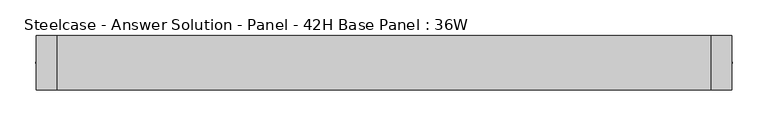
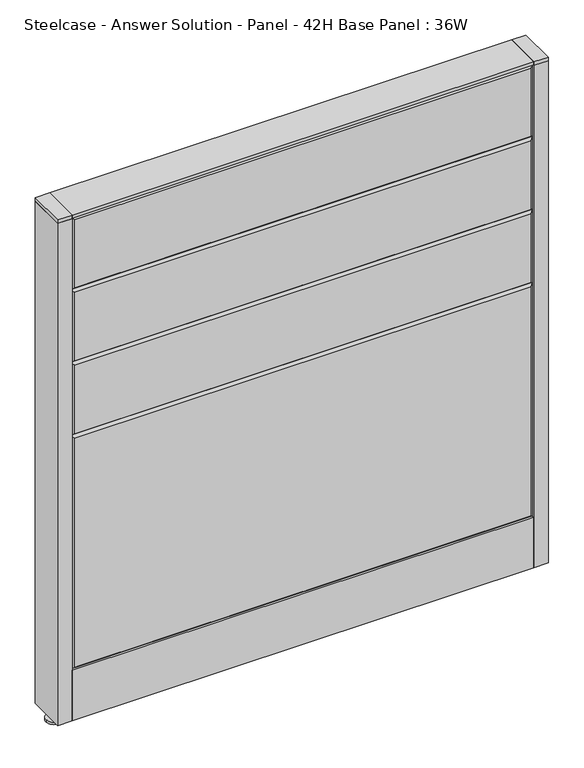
"""IFC4 building model written with IfcOpenShell, lengths in millimetres: furniture geometry, Steelcase - Answer Solution - Panel - 42H Base Panel : 36W."""

from ifc_helpers import new_model, si_unit, point, frame, frame_2d, origin, place, context, project, spatial, polyline, circle_curve, trimmed, segment, composite_curve, outline, extrude, faceted_brep, source, transform, mapped, element, save


def steelcase_answer_solution_panel_42h_base_panel_36w_b09bc268(model_context):
    return source(origin(), model_context, "Body", "SolidModel", [
        extrude(outline(composite_curve([segment(trimmed(circle_curve(frame_2d((471.424, 0.0039657)), 5.08), [point((476.504, 0.0039657))], [point((466.344, 0.0039657))], False, "CARTESIAN"), True, "CONTINUOUS"), segment(trimmed(circle_curve(frame_2d((471.424, 0.0039657)), 5.08), [point((466.344, 0.0039657))], [point((476.504, 0.0039657))], False, "CARTESIAN"), True, "CONTINUOUS")], self_intersect=False)), frame((0.0, 0.0, 5.0799671), z_axis=(0.0, 0.0, 1.0), x_axis=(1.0, 0.0, 0.0)), (0.0, 0.0, 1.0), 10.414),
        extrude(outline(composite_curve([segment(trimmed(circle_curve(frame_2d((471.424, 0.0039657)), 15.24), [point((486.664, 0.0039657))], [point((456.184, 0.0039657))], False, "CARTESIAN"), True, "CONTINUOUS"), segment(trimmed(circle_curve(frame_2d((471.424, 0.0039657)), 15.24), [point((456.184, 0.0039657))], [point((486.664, 0.0039657))], False, "CARTESIAN"), True, "CONTINUOUS")], self_intersect=False)), frame((0.0, 0.0, -3.29e-05), z_axis=(0.0, 0.0, 1.0), x_axis=(1.0, 0.0, 0.0)), (0.0, 0.0, 1.0), 5.08),
        extrude(outline(polyline([(485.775, 38.1039851), (485.775, -38.0960149), (457.2, -38.0960149), (457.2, 38.1039851), (485.775, 38.1039851)])), frame((0.0, 0.0, 1065.8348), z_axis=(0.0, 0.0, 1.0), x_axis=(1.0, 0.0, 0.0)), (0.0, 0.0, 1.0), 7.3151671),
        extrude(outline(polyline([(485.775, 38.1039851), (485.775, -38.0960149), (457.2, -38.0960149), (457.2, 38.1039851), (485.775, 38.1039851)])), frame((0.0, 0.0, 15.4939671), z_axis=(0.0, 0.0, 1.0), x_axis=(1.0, 0.0, 0.0)), (0.0, 0.0, 1.0), 1050.3408329),
        extrude(outline(composite_curve([segment(trimmed(circle_curve(frame_2d((-471.424, 0.0039657)), 5.08), [point((-476.504, 0.0039657))], [point((-466.344, 0.0039657))], False, "CARTESIAN"), True, "CONTINUOUS"), segment(trimmed(circle_curve(frame_2d((-471.424, 0.0039657)), 5.08), [point((-466.344, 0.0039657))], [point((-476.504, 0.0039657))], False, "CARTESIAN"), True, "CONTINUOUS")], self_intersect=False)), frame((0.0, 0.0, 5.0799671), z_axis=(0.0, 0.0, 1.0), x_axis=(1.0, 0.0, 0.0)), (0.0, 0.0, 1.0), 10.414),
        extrude(outline(composite_curve([segment(trimmed(circle_curve(frame_2d((-471.424, 0.0039657)), 15.24), [point((-486.664, 0.0039657))], [point((-456.184, 0.0039657))], False, "CARTESIAN"), True, "CONTINUOUS"), segment(trimmed(circle_curve(frame_2d((-471.424, 0.0039657)), 15.24), [point((-456.184, 0.0039657))], [point((-486.664, 0.0039657))], False, "CARTESIAN"), True, "CONTINUOUS")], self_intersect=False)), frame((0.0, 0.0, -3.29e-05), z_axis=(0.0, 0.0, 1.0), x_axis=(1.0, 0.0, 0.0)), (0.0, 0.0, 1.0), 5.08),
        extrude(outline(polyline([(-485.775, 38.1039851), (-457.2, 38.1039851), (-457.2, -38.0960149), (-485.775, -38.0960149), (-485.775, 38.1039851)])), frame((0.0, 0.0, 1065.8348), z_axis=(0.0, 0.0, 1.0), x_axis=(1.0, 0.0, 0.0)), (0.0, 0.0, 1.0), 7.3151671),
        extrude(outline(polyline([(-485.775, 38.1039851), (-457.2, 38.1039851), (-457.2, -38.0960149), (-485.775, -38.0960149), (-485.775, 38.1039851)])), frame((0.0, 0.0, 15.4939671), z_axis=(0.0, 0.0, 1.0), x_axis=(1.0, 0.0, 0.0)), (0.0, 0.0, 1.0), 1050.3408329),
        faceted_brep([(-452.374, 38.1635011, 1061.974), (452.374, 38.1635011, 1061.974), (452.374, 38.1635011, 919.226), (-452.374, 38.1635011, 919.226), (-457.2, 33.3375011, 1066.8), (-457.2, 33.3375011, 914.4), (457.2, 33.3375011, 914.4), (457.2, 33.3375011, 1066.8)], [[[0, 1, 2, 3]], [[4, 5, 6, 7]], [[4, 7, 1, 0]], [[7, 6, 2, 1]], [[6, 5, 3, 2]], [[5, 4, 0, 3]]]),
        faceted_brep([(-452.374, 38.1635011, 909.574), (452.374, 38.1635011, 909.574), (452.374, 38.1635011, 766.826), (-452.374, 38.1635011, 766.826), (-457.2, 33.3375011, 914.4), (-457.2, 33.3375011, 762.0), (457.2, 33.3375011, 762.0), (457.2, 33.3375011, 914.4)], [[[0, 1, 2, 3]], [[4, 5, 6, 7]], [[4, 7, 1, 0]], [[7, 6, 2, 1]], [[6, 5, 3, 2]], [[5, 4, 0, 3]]]),
        faceted_brep([(-452.374, 38.1635011, 757.174), (452.374, 38.1635011, 757.174), (452.374, 38.1635011, 614.426), (-452.374, 38.1635011, 614.426), (-457.2, 33.3375011, 762.0), (-457.2, 33.3375011, 609.6), (457.2, 33.3375011, 609.6), (457.2, 33.3375011, 762.0)], [[[0, 1, 2, 3]], [[4, 5, 6, 7]], [[4, 7, 1, 0]], [[7, 6, 2, 1]], [[6, 5, 3, 2]], [[5, 4, 0, 3]]]),
        faceted_brep([(-452.374, 38.1635011, 604.774), (452.374, 38.1635011, 604.774), (452.374, 38.1635011, 125.476), (-452.374, 38.1635011, 125.476), (-457.2, 33.3375011, 609.6), (-457.2, 33.3375011, 120.65), (457.2, 33.3375011, 120.65), (457.2, 33.3375011, 609.6)], [[[0, 1, 2, 3]], [[4, 5, 6, 7]], [[4, 7, 1, 0]], [[7, 6, 2, 1]], [[6, 5, 3, 2]], [[5, 4, 0, 3]]]),
        faceted_brep([(452.374, -38.1635011, 1061.974), (-452.374, -38.1635011, 1061.974), (-452.374, -38.1635011, 919.226), (452.374, -38.1635011, 919.226), (457.2, -33.3375011, 1066.8), (457.2, -33.3375011, 914.4), (-457.2, -33.3375011, 914.4), (-457.2, -33.3375011, 1066.8)], [[[0, 1, 2, 3]], [[4, 5, 6, 7]], [[4, 7, 1, 0]], [[7, 6, 2, 1]], [[6, 5, 3, 2]], [[5, 4, 0, 3]]]),
        faceted_brep([(452.374, -38.1635011, 909.574), (-452.374, -38.1635011, 909.574), (-452.374, -38.1635011, 766.826), (452.374, -38.1635011, 766.826), (457.2, -33.3375011, 914.4), (457.2, -33.3375011, 762.0), (-457.2, -33.3375011, 762.0), (-457.2, -33.3375011, 914.4)], [[[0, 1, 2, 3]], [[4, 5, 6, 7]], [[4, 7, 1, 0]], [[7, 6, 2, 1]], [[6, 5, 3, 2]], [[5, 4, 0, 3]]]),
        faceted_brep([(452.374, -38.1635011, 757.174), (-452.374, -38.1635011, 757.174), (-452.374, -38.1635011, 614.426), (452.374, -38.1635011, 614.426), (457.2, -33.3375011, 762.0), (457.2, -33.3375011, 609.6), (-457.2, -33.3375011, 609.6), (-457.2, -33.3375011, 762.0)], [[[0, 1, 2, 3]], [[4, 5, 6, 7]], [[4, 7, 1, 0]], [[7, 6, 2, 1]], [[6, 5, 3, 2]], [[5, 4, 0, 3]]]),
        faceted_brep([(452.374, -38.1635011, 604.774), (-452.374, -38.1635011, 604.774), (-452.374, -38.1635011, 125.476), (452.374, -38.1635011, 125.476), (457.2, -33.3375011, 609.6), (457.2, -33.3375011, 120.65), (-457.2, -33.3375011, 120.65), (-457.2, -33.3375011, 609.6)], [[[0, 1, 2, 3]], [[4, 5, 6, 7]], [[4, 7, 1, 0]], [[7, 6, 2, 1]], [[6, 5, 3, 2]], [[5, 4, 0, 3]]]),
        extrude(outline(polyline([(457.2, 38.1000194), (457.2, -38.1000194), (-457.2, -38.1000194), (-457.2, 38.1000194), (457.2, 38.1000194)])), frame((0.0, 0.0, 1066.8), z_axis=(0.0, 0.0, 1.0), x_axis=(1.0, 0.0, 0.0)), (0.0, 0.0, 1.0), 6.35),
        extrude(outline(polyline([(25.4000011, 119.8575157), (25.4000011, 120.65), (38.1000194, 120.65), (38.1000194, 15.494), (37.3075215, 15.494), (37.3075215, 119.8575157), (25.4000011, 119.8575157)])), frame((-457.2, 0.0, 0.0), z_axis=(1.0, 0.0, 0.0), x_axis=(0.0, 1.0, 0.0)), (0.0, 0.0, 1.0), 914.4),
        extrude(outline(polyline([(-25.4000011, 119.8575157), (-37.3075215, 119.8575157), (-37.3075215, 15.494), (-38.1000194, 15.494), (-38.1000194, 120.65), (-25.4000011, 120.65), (-25.4000011, 119.8575157)])), frame((-457.2, 0.0, 0.0), z_axis=(1.0, 0.0, 0.0), x_axis=(0.0, 1.0, 0.0)), (0.0, 0.0, 1.0), 914.4),
    ])


if __name__ == "__main__":
    model = new_model("IFC4")
    model_context = context("Model", 3, world=origin())
    ifc_project = project(units=[si_unit("LENGTHUNIT", "METRE", prefix="MILLI")], contexts=[model_context])
    site = spatial("IfcSite", under=ifc_project)
    building = spatial("IfcBuilding", under=site)
    placement = place(None, origin())
    steelcase_answer_solution_panel_42h_base_panel_36w_shape = steelcase_answer_solution_panel_42h_base_panel_36w_b09bc268(model_context)
    element("IfcFurniture", 1, ObjectType="Steelcase - Answer Solution - Panel - 42H Base Panel : 36W", at=placement, inside=building, context=model_context, shape_type="MappedRepresentation", body=[
        mapped(steelcase_answer_solution_panel_42h_base_panel_36w_shape, transform((0.0, 0.0, 0.0), x_axis=(1.0, 0.0, 0.0), y_axis=(0.0, 1.0, 0.0), z_axis=(0.0, 0.0, 1.0))),
    ])
    save(model, "model.ifc")
